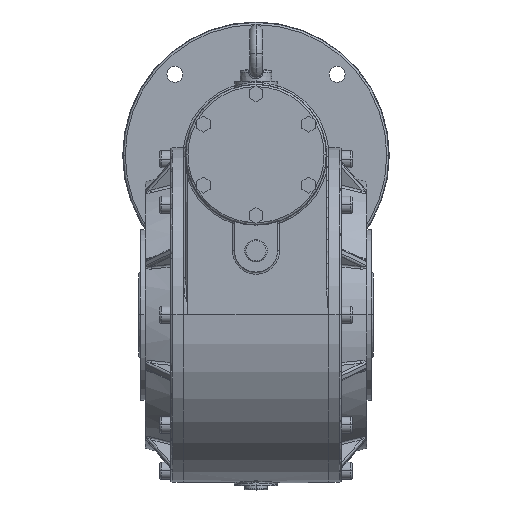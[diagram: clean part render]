
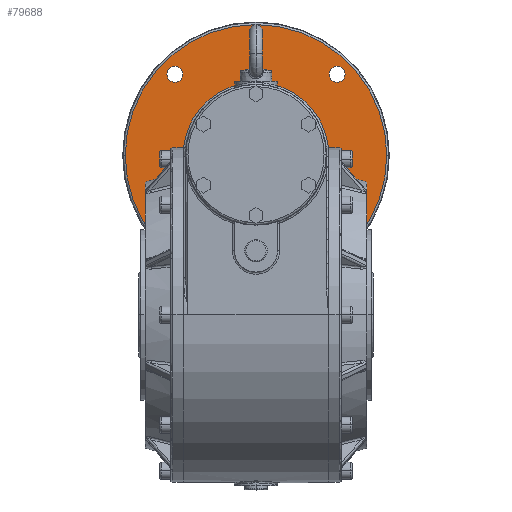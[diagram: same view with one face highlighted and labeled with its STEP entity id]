
A CAD part, top view. The second image highlights one B-rep face of the part: STEP entity #79688.
In plain terms, the highlighted planar face has unit normal (0, 0, 1).
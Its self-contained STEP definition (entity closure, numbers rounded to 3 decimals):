
#5667 = DIRECTION ( 'NONE',  ( -1., 0., 0. ) ) ;
#5668 = DIRECTION ( 'NONE',  ( 0., 0., 1. ) ) ;
#5669 = CARTESIAN_POINT ( 'NONE',  ( -76.014, 226.014, -173. ) ) ;
#5670 = AXIS2_PLACEMENT_3D ( 'NONE', #5669, #5668, #5667 ) ;
#5671 = CIRCLE ( 'NONE', #5670, 7.5 ) ;
#5672 = DIRECTION ( 'NONE',  ( -1., 0., 0. ) ) ;
#5673 = DIRECTION ( 'NONE',  ( 0., 0., 1. ) ) ;
#5674 = CARTESIAN_POINT ( 'NONE',  ( -76.014, 73.986, -173. ) ) ;
#5675 = AXIS2_PLACEMENT_3D ( 'NONE', #5674, #5673, #5672 ) ;
#5676 = CIRCLE ( 'NONE', #5675, 7.5 ) ;
#5748 = CIRCLE ( 'NONE', #5800, 122.545 ) ;
#5770 = DIRECTION ( 'NONE',  ( -1., 0., 0. ) ) ;
#5771 = DIRECTION ( 'NONE',  ( 0., 0., 1. ) ) ;
#5782 = AXIS2_PLACEMENT_3D ( 'NONE', #5784, #5771, #5770 ) ;
#5783 = CIRCLE ( 'NONE', #5782, 7.5 ) ;
#5784 = CARTESIAN_POINT ( 'NONE',  ( 76.014, 73.986, -173. ) ) ;
#5786 = DIRECTION ( 'NONE',  ( -1., 0., 0. ) ) ;
#5787 = DIRECTION ( 'NONE',  ( 0., 0., -1. ) ) ;
#5788 = CARTESIAN_POINT ( 'NONE',  ( 0., 218.281, -173. ) ) ;
#5789 = AXIS2_PLACEMENT_3D ( 'NONE', #5788, #5787, #5786 ) ;
#5790 = PLANE ( 'NONE',  #5789 ) ;
#5791 = FACE_OUTER_BOUND ( 'NONE', #79213, .T. ) ;
#5792 = FACE_BOUND ( 'NONE', #79735, .T. ) ;
#5793 = FACE_BOUND ( 'NONE', #79635, .T. ) ;
#5794 = FACE_BOUND ( 'NONE', #79630, .T. ) ;
#5795 = FACE_BOUND ( 'NONE', #79696, .T. ) ;
#5796 = FACE_BOUND ( 'NONE', #79642, .T. ) ;
#5797 = DIRECTION ( 'NONE',  ( 1., 0., 0. ) ) ;
#5798 = DIRECTION ( 'NONE',  ( 0., 0., 1. ) ) ;
#5799 = CARTESIAN_POINT ( 'NONE',  ( 0., 150., -173. ) ) ;
#5800 = AXIS2_PLACEMENT_3D ( 'NONE', #5799, #5798, #5797 ) ;
#5836 = CARTESIAN_POINT ( 'NONE',  ( 0., 150., -173. ) ) ;
#5837 = AXIS2_PLACEMENT_3D ( 'NONE', #5836, #5903, #5902 ) ;
#5838 = CIRCLE ( 'NONE', #5837, 68.281 ) ;
#5839 = DIRECTION ( 'NONE',  ( -1., 0., 0. ) ) ;
#5840 = DIRECTION ( 'NONE',  ( 0., 0., 1. ) ) ;
#5841 = CARTESIAN_POINT ( 'NONE',  ( 76.014, 226.014, -173. ) ) ;
#5842 = AXIS2_PLACEMENT_3D ( 'NONE', #5841, #5840, #5839 ) ;
#5843 = CIRCLE ( 'NONE', #5842, 7.5 ) ;
#5902 = DIRECTION ( 'NONE',  ( 1., 0., 0. ) ) ;
#5903 = DIRECTION ( 'NONE',  ( 0., 0., 1. ) ) ;
#70850 = CARTESIAN_POINT ( 'NONE',  ( 68.514, 73.986, -173. ) ) ;
#71229 = DIRECTION ( 'NONE',  ( -1., 0., 0. ) ) ;
#71230 = DIRECTION ( 'NONE',  ( 0., 0., 1. ) ) ;
#71231 = AXIS2_PLACEMENT_3D ( 'NONE', #71238, #71230, #71229 ) ;
#71232 = CIRCLE ( 'NONE', #71231, 7.5 ) ;
#71238 = CARTESIAN_POINT ( 'NONE',  ( 76.014, 73.986, -173. ) ) ;
#71415 = CARTESIAN_POINT ( 'NONE',  ( 83.514, 73.986, -173. ) ) ;
#71439 = CARTESIAN_POINT ( 'NONE',  ( -68.514, 226.014, -173. ) ) ;
#71440 = CARTESIAN_POINT ( 'NONE',  ( -83.514, 226.014, -173. ) ) ;
#71441 = DIRECTION ( 'NONE',  ( -1., 0., 0. ) ) ;
#71442 = DIRECTION ( 'NONE',  ( 0., 0., 1. ) ) ;
#71443 = CARTESIAN_POINT ( 'NONE',  ( -76.014, 226.014, -173. ) ) ;
#71444 = AXIS2_PLACEMENT_3D ( 'NONE', #71443, #71442, #71441 ) ;
#71445 = CIRCLE ( 'NONE', #71444, 7.5 ) ;
#71478 = CARTESIAN_POINT ( 'NONE',  ( 0., 150., -173. ) ) ;
#71479 = AXIS2_PLACEMENT_3D ( 'NONE', #71478, #71539, #71538 ) ;
#71480 = CIRCLE ( 'NONE', #71479, 122.545 ) ;
#71481 = CARTESIAN_POINT ( 'NONE',  ( -122.545, 150., -173. ) ) ;
#71513 = CARTESIAN_POINT ( 'NONE',  ( 83.514, 226.014, -173. ) ) ;
#71514 = CARTESIAN_POINT ( 'NONE',  ( 68.514, 226.014, -173. ) ) ;
#71515 = DIRECTION ( 'NONE',  ( -1., 0., 0. ) ) ;
#71516 = DIRECTION ( 'NONE',  ( 0., 0., 1. ) ) ;
#71517 = CARTESIAN_POINT ( 'NONE',  ( 76.014, 226.014, -173. ) ) ;
#71518 = AXIS2_PLACEMENT_3D ( 'NONE', #71517, #71516, #71515 ) ;
#71519 = CIRCLE ( 'NONE', #71518, 7.5 ) ;
#71537 = CARTESIAN_POINT ( 'NONE',  ( 122.545, 150., -173. ) ) ;
#71538 = DIRECTION ( 'NONE',  ( 1., 0., 0. ) ) ;
#71539 = DIRECTION ( 'NONE',  ( 0., 0., 1. ) ) ;
#71543 = CARTESIAN_POINT ( 'NONE',  ( -76.014, 73.986, -173. ) ) ;
#71551 = CARTESIAN_POINT ( 'NONE',  ( -83.514, 73.986, -173. ) ) ;
#71602 = CARTESIAN_POINT ( 'NONE',  ( -68.514, 73.986, -173. ) ) ;
#71603 = DIRECTION ( 'NONE',  ( -1., 0., 0. ) ) ;
#71604 = DIRECTION ( 'NONE',  ( 0., 0., 1. ) ) ;
#71605 = AXIS2_PLACEMENT_3D ( 'NONE', #71543, #71604, #71603 ) ;
#71606 = CIRCLE ( 'NONE', #71605, 7.5 ) ;
#71626 = CARTESIAN_POINT ( 'NONE',  ( -68.281, 150., -173. ) ) ;
#71647 = CARTESIAN_POINT ( 'NONE',  ( 68.281, 150., -173. ) ) ;
#71648 = DIRECTION ( 'NONE',  ( 1., 0., 0. ) ) ;
#71649 = DIRECTION ( 'NONE',  ( 0., 0., 1. ) ) ;
#71650 = CARTESIAN_POINT ( 'NONE',  ( 0., 150., -173. ) ) ;
#71651 = AXIS2_PLACEMENT_3D ( 'NONE', #71650, #71649, #71648 ) ;
#71652 = CIRCLE ( 'NONE', #71651, 68.281 ) ;
#75923 = VERTEX_POINT ( 'NONE', #70850 ) ;
#76375 = EDGE_CURVE ( 'NONE', #75923, #76569, #71232, .T. ) ;
#76541 = EDGE_CURVE ( 'NONE', #76544, #76546, #71445, .T. ) ;
#76544 = VERTEX_POINT ( 'NONE', #71440 ) ;
#76546 = VERTEX_POINT ( 'NONE', #71439 ) ;
#76569 = VERTEX_POINT ( 'NONE', #71415 ) ;
#76626 = VERTEX_POINT ( 'NONE', #71481 ) ;
#76630 = EDGE_CURVE ( 'NONE', #76633, #76626, #71480, .T. ) ;
#76633 = VERTEX_POINT ( 'NONE', #71537 ) ;
#76652 = EDGE_CURVE ( 'NONE', #76654, #76656, #71519, .T. ) ;
#76654 = VERTEX_POINT ( 'NONE', #71514 ) ;
#76656 = VERTEX_POINT ( 'NONE', #71513 ) ;
#76690 = VERTEX_POINT ( 'NONE', #71551 ) ;
#76700 = EDGE_CURVE ( 'NONE', #76690, #76702, #71606, .T. ) ;
#76702 = VERTEX_POINT ( 'NONE', #71602 ) ;
#76753 = VERTEX_POINT ( 'NONE', #71626 ) ;
#76801 = EDGE_CURVE ( 'NONE', #76753, #76803, #71652, .T. ) ;
#76803 = VERTEX_POINT ( 'NONE', #71647 ) ;
#79213 = EDGE_LOOP ( 'NONE', ( #79725, #79763 ) ) ;
#79628 = ORIENTED_EDGE ( 'NONE', *, *, #79629, .F. ) ;
#79629 = EDGE_CURVE ( 'NONE', #76702, #76690, #5676, .T. ) ;
#79630 = EDGE_LOOP ( 'NONE', ( #79632, #79633 ) ) ;
#79632 = ORIENTED_EDGE ( 'NONE', *, *, #76541, .F. ) ;
#79633 = ORIENTED_EDGE ( 'NONE', *, *, #79634, .F. ) ;
#79634 = EDGE_CURVE ( 'NONE', #76546, #76544, #5671, .T. ) ;
#79635 = EDGE_LOOP ( 'NONE', ( #79636, #79637 ) ) ;
#79636 = ORIENTED_EDGE ( 'NONE', *, *, #76652, .F. ) ;
#79637 = ORIENTED_EDGE ( 'NONE', *, *, #79734, .F. ) ;
#79642 = EDGE_LOOP ( 'NONE', ( #79689, #79693 ) ) ;
#79687 = EDGE_CURVE ( 'NONE', #76626, #76633, #5748, .T. ) ;
#79688 = ADVANCED_FACE ( 'NONE', ( #5796, #5795, #5794, #5793, #5792, #5791 ), #5790, .F. ) ;
#79689 = ORIENTED_EDGE ( 'NONE', *, *, #76375, .F. ) ;
#79693 = ORIENTED_EDGE ( 'NONE', *, *, #79695, .F. ) ;
#79695 = EDGE_CURVE ( 'NONE', #76569, #75923, #5783, .T. ) ;
#79696 = EDGE_LOOP ( 'NONE', ( #79697, #79628 ) ) ;
#79697 = ORIENTED_EDGE ( 'NONE', *, *, #76700, .F. ) ;
#79725 = ORIENTED_EDGE ( 'NONE', *, *, #76630, .T. ) ;
#79734 = EDGE_CURVE ( 'NONE', #76656, #76654, #5843, .T. ) ;
#79735 = EDGE_LOOP ( 'NONE', ( #79736, #79738 ) ) ;
#79736 = ORIENTED_EDGE ( 'NONE', *, *, #79737, .F. ) ;
#79737 = EDGE_CURVE ( 'NONE', #76803, #76753, #5838, .T. ) ;
#79738 = ORIENTED_EDGE ( 'NONE', *, *, #76801, .F. ) ;
#79763 = ORIENTED_EDGE ( 'NONE', *, *, #79687, .T. ) ;
